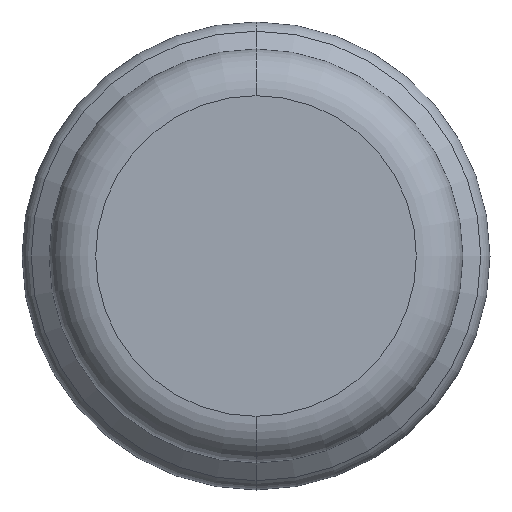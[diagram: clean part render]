
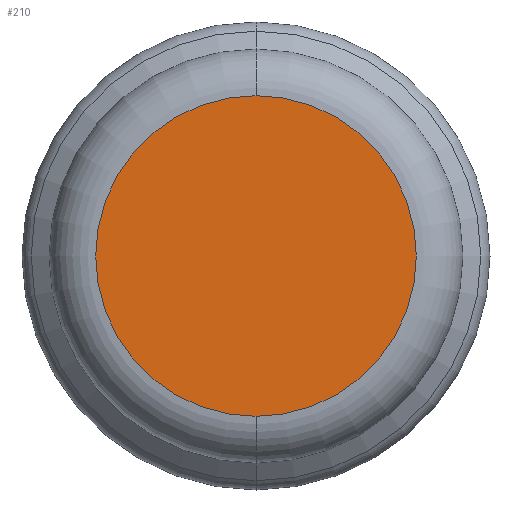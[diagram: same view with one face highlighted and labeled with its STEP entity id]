
A CAD part, front view. The second image highlights one B-rep face of the part: STEP entity #210.
In plain terms, the highlighted planar face has unit normal (0, -1, 0).
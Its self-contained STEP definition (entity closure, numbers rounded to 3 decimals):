
#10=CARTESIAN_POINT('',(0.837,-12.375,0.));
#20=DIRECTION('',(0.,-1.,0.));
#30=DIRECTION('',(0.,0.,-1.));
#40=AXIS2_PLACEMENT_3D('',#10,#20,#30);
#50=PLANE('',#40);
#60=CARTESIAN_POINT('',(28.875,-12.375,0.));
#70=DIRECTION('',(0.,-1.,0.));
#80=DIRECTION('',(0.,0.,-1.));
#90=AXIS2_PLACEMENT_3D('',#60,#70,#80);
#100=CIRCLE('',#90,22.375);
#110=CARTESIAN_POINT('',(28.875,-12.375,-22.375));
#120=VERTEX_POINT('',#110);
#130=CARTESIAN_POINT('',(28.875,-12.375,22.375));
#140=VERTEX_POINT('',#130);
#150=EDGE_CURVE('',#120,#140,#100,.T.);
#160=ORIENTED_EDGE('',*,*,#150,.T.);
#170=EDGE_CURVE('',#140,#120,#100,.T.);
#180=ORIENTED_EDGE('',*,*,#170,.T.);
#190=EDGE_LOOP('',(#180,#160));
#200=FACE_OUTER_BOUND('',#190,.T.);
#210=ADVANCED_FACE('',(#200),#50,.T.);
